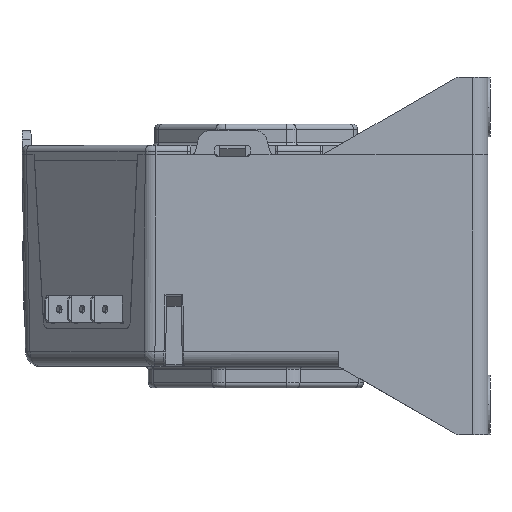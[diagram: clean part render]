
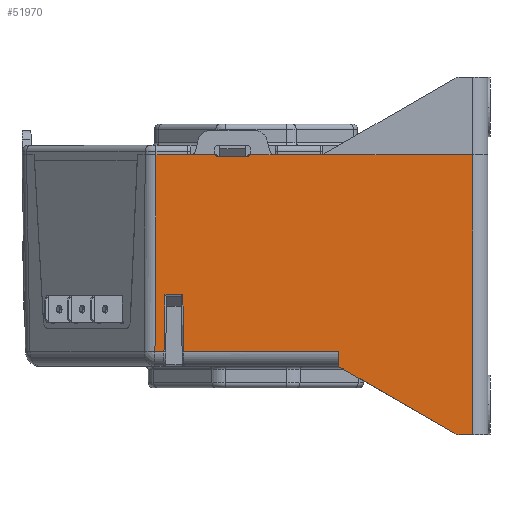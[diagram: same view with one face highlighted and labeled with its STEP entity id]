
A CAD part, left-side view. The second image highlights one B-rep face of the part: STEP entity #51970.
In plain terms, the highlighted planar face has unit normal (-1, 0, -0.018).
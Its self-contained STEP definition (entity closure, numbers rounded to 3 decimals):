
#5070=CARTESIAN_POINT('',(-50.,15.767,-7.2));
#5080=VERTEX_POINT('',#5070);
#5490=CARTESIAN_POINT('',(-48.851,-50.4,-73.));
#5500=VERTEX_POINT('',#5490);
#5550=CARTESIAN_POINT('',(-50.125,-50.4,-0.063));
#5560=DIRECTION('',(-0.017,0.,1.));
#5570=VECTOR('',#5560,1.);
#5580=LINE('',#5550,#5570);
#5590=CARTESIAN_POINT('',(-50.,-50.4,-7.2));
#5600=VERTEX_POINT('',#5590);
#5610=EDGE_CURVE('',#5500,#5600,#5580,.T.);
#9270=CARTESIAN_POINT('',(-50.,0.,-7.2));
#9280=DIRECTION('',(0.,-1.,0.));
#9290=VECTOR('',#9280,1.);
#9300=LINE('',#9270,#9290);
#9310=CARTESIAN_POINT('',(-50.,-15.177,-7.2));
#9320=VERTEX_POINT('',#9310);
#9330=EDGE_CURVE('',#9320,#5600,#9300,.T.);
#26670=CARTESIAN_POINT('',(-50.,1.834,-7.2));
#26680=VERTEX_POINT('',#26670);
#26710=CARTESIAN_POINT('',(-50.009,2.7,-6.7));
#26720=DIRECTION('',(-1.,0.,-0.017));
#26730=DIRECTION('',(-0.017,0.,1.));
#26740=AXIS2_PLACEMENT_3D('',#26710,#26720,#26730);
#26750=ELLIPSE('',#26740,1.,1.);
#26760=CARTESIAN_POINT('',(-49.991,2.7,-7.7));
#26770=VERTEX_POINT('',#26760);
#26780=EDGE_CURVE('',#26770,#26680,#26750,.T.);
#27080=CARTESIAN_POINT('',(-50.,10.166,-7.2));
#27090=VERTEX_POINT('',#27080);
#27350=CARTESIAN_POINT('',(-49.991,9.3,-7.7));
#27360=VERTEX_POINT('',#27350);
#27390=CARTESIAN_POINT('',(-50.009,9.3,-6.7));
#27400=DIRECTION('',(-1.,0.,-0.017));
#27410=DIRECTION('',(-0.017,0.,1.));
#27420=AXIS2_PLACEMENT_3D('',#27390,#27400,#27410);
#27430=ELLIPSE('',#27420,1.,1.);
#27440=EDGE_CURVE('',#27090,#27360,#27430,.T.);
#38860=CARTESIAN_POINT('',(-50.,0.,-7.2));
#38870=DIRECTION('',(0.,-1.,0.));
#38880=VECTOR('',#38870,1.);
#38890=LINE('',#38860,#38880);
#38900=EDGE_CURVE('',#5080,#27090,#38890,.T.);
#39330=CARTESIAN_POINT('',(-50.,-3.767,-7.2));
#39340=VERTEX_POINT('',#39330);
#39370=EDGE_CURVE('',#26680,#39340,#38890,.T.);
#39900=CARTESIAN_POINT('',(-50.,0.,-7.2));
#39910=DIRECTION('',(0.,-1.,0.));
#39920=VECTOR('',#39910,1.);
#39930=LINE('',#39900,#39920);
#39940=CARTESIAN_POINT('',(-50.,-14.65,-7.2));
#39950=VERTEX_POINT('',#39940);
#39960=EDGE_CURVE('',#39950,#9320,#39930,.T.);
#44250=CARTESIAN_POINT('',(-49.192,17.47,
-53.463));
#44260=VERTEX_POINT('',#44250);
#44290=CARTESIAN_POINT('',(-49.192,0.,-53.463));
#44300=DIRECTION('',(0.,1.,0.));
#44310=VECTOR('',#44300,1.);
#44320=LINE('',#44290,#44310);
#44330=CARTESIAN_POINT('',(-49.192,-18.987,
-53.463));
#44340=VERTEX_POINT('',#44330);
#44350=EDGE_CURVE('',#44340,#44260,#44320,.T.);
#44500=CARTESIAN_POINT('',(-49.192,24.245,
-53.463));
#44510=VERTEX_POINT('',#44500);
#44540=CARTESIAN_POINT('',(-49.192,22.13,
-53.463));
#44550=VERTEX_POINT('',#44540);
#44560=EDGE_CURVE('',#44550,#44510,#44320,.T.);
#47010=CARTESIAN_POINT('',(-50.,24.009,-7.2));
#47020=VERTEX_POINT('',#47010);
#47050=CARTESIAN_POINT('',(-50.125,23.972,
-0.063));
#47060=DIRECTION('',(-0.017,-0.005,
1.));
#47070=VECTOR('',#47060,1.);
#47080=LINE('',#47050,#47070);
#47090=EDGE_CURVE('',#44510,#47020,#47080,.T.);
#50880=CARTESIAN_POINT('',(-49.635,-26.301,
-28.101));
#50890=DIRECTION('',(-1.,-0.,-0.017));
#50900=DIRECTION('',(0.,-1.,0.));
#50910=AXIS2_PLACEMENT_3D('',#50880,#50890,#50900);
#50920=PLANE('',#50910);
#50930=CARTESIAN_POINT('',(-50.126,21.197,
-0.007));
#50940=DIRECTION('',(-0.017,-0.017,
1.));
#50950=VECTOR('',#50940,1.);
#50960=LINE('',#50930,#50950);
#50970=CARTESIAN_POINT('',(-49.425,21.897,
-40.134));
#50980=VERTEX_POINT('',#50970);
#50990=EDGE_CURVE('',#44550,#50980,#50960,.T.);
#51000=ORIENTED_EDGE('',*,*,#50990,.T.);
#51010=ORIENTED_EDGE('',*,*,#44560,.F.);
#51020=ORIENTED_EDGE('',*,*,#47090,.F.);
#51030=CARTESIAN_POINT('',(-46.4,24.009,-7.2));
#51040=DIRECTION('',(0.,0.,1.));
#51050=DIRECTION('',(1.,0.,0.));
#51060=AXIS2_PLACEMENT_3D('',#51030,#51040,#51050);
#51070=CIRCLE('',#51060,3.6);
#51080=CARTESIAN_POINT('',(-50.,24.009,-7.2));
#51090=VERTEX_POINT('',#51080);
#51100=EDGE_CURVE('',#47020,#51090,#51070,.T.);
#51110=ORIENTED_EDGE('',*,*,#51100,.F.);
#51120=CARTESIAN_POINT('',(-50.,0.,-7.2));
#51130=DIRECTION('',(0.,-1.,0.));
#51140=VECTOR('',#51130,1.);
#51150=LINE('',#51120,#51140);
#51160=CARTESIAN_POINT('',(-50.,16.5,-7.2));
#51170=VERTEX_POINT('',#51160);
#51180=EDGE_CURVE('',#51090,#51170,#51150,.T.);
#51190=ORIENTED_EDGE('',*,*,#51180,.F.);
#51200=CARTESIAN_POINT('',(-50.,0.,-7.2));
#51210=DIRECTION('',(0.,-1.,0.));
#51220=VECTOR('',#51210,1.);
#51230=LINE('',#51200,#51220);
#51240=EDGE_CURVE('',#51170,#5080,#51230,.T.);
#51250=ORIENTED_EDGE('',*,*,#51240,.F.);
#51260=ORIENTED_EDGE('',*,*,#38900,.F.);
#51270=ORIENTED_EDGE('',*,*,#27440,.F.);
#51280=CARTESIAN_POINT('',(-49.991,0.,-7.7));
#51290=DIRECTION('',(0.,1.,0.));
#51300=VECTOR('',#51290,1.);
#51310=LINE('',#51280,#51300);
#51320=EDGE_CURVE('',#26770,#27360,#51310,.T.);
#51330=ORIENTED_EDGE('',*,*,#51320,.T.);
#51340=ORIENTED_EDGE('',*,*,#26780,.F.);
#51350=ORIENTED_EDGE('',*,*,#39370,.F.);
#51360=CARTESIAN_POINT('',(-50.,-4.5,-7.2));
#51370=VERTEX_POINT('',#51360);
#51380=EDGE_CURVE('',#39340,#51370,#39930,.T.);
#51390=ORIENTED_EDGE('',*,*,#51380,.F.);
#51400=CARTESIAN_POINT('',(-50.,0.,-7.2));
#51410=DIRECTION('',(0.,-1.,0.));
#51420=VECTOR('',#51410,1.);
#51430=LINE('',#51400,#51420);
#51440=EDGE_CURVE('',#51370,#39950,#51430,.T.);
#51450=ORIENTED_EDGE('',*,*,#51440,.F.);
#51460=ORIENTED_EDGE('',*,*,#39960,.F.);
#51470=ORIENTED_EDGE('',*,*,#9330,.F.);
#51480=ORIENTED_EDGE('',*,*,#5610,.T.);
#51490=CARTESIAN_POINT('',(-48.851,0.,-73.));
#51500=DIRECTION('',(0.,-1.,0.));
#51510=VECTOR('',#51500,1.);
#51520=LINE('',#51490,#51510);
#51530=CARTESIAN_POINT('',(-48.851,-47.343,-73.));
#51540=VERTEX_POINT('',#51530);
#51550=EDGE_CURVE('',#51540,#5500,#51520,.T.);
#51560=ORIENTED_EDGE('',*,*,#51550,.T.);
#51570=CARTESIAN_POINT('',(-48.893,-47.343,-70.6));
#51580=DIRECTION('',(-1.,0.,-0.017));
#51590=DIRECTION('',(-0.017,0.,1.));
#51600=AXIS2_PLACEMENT_3D('',#51570,#51580,#51590);
#51610=ELLIPSE('',#51600,2.4,2.4);
#51620=CARTESIAN_POINT('',(-48.857,-46.143,
-72.678));
#51630=VERTEX_POINT('',#51620);
#51640=EDGE_CURVE('',#51630,#51540,#51610,.T.);
#51650=ORIENTED_EDGE('',*,*,#51640,.T.);
#51660=CARTESIAN_POINT('',(-49.322,0.,-46.038));
#51670=DIRECTION('',(-0.009,0.866,
0.5));
#51680=VECTOR('',#51670,1.);
#51690=LINE('',#51660,#51680);
#51700=CARTESIAN_POINT('',(-49.131,-18.987,-57.));
#51710=VERTEX_POINT('',#51700);
#51720=EDGE_CURVE('',#51630,#51710,#51690,.T.);
#51730=ORIENTED_EDGE('',*,*,#51720,.F.);
#51740=CARTESIAN_POINT('',(-50.126,-18.987,0.));
#51750=DIRECTION('',(-0.017,0.,1.));
#51760=VECTOR('',#51750,1.);
#51770=LINE('',#51740,#51760);
#51780=EDGE_CURVE('',#51710,#44340,#51770,.T.);
#51790=ORIENTED_EDGE('',*,*,#51780,.F.);
#51800=ORIENTED_EDGE('',*,*,#44350,.F.);
#51810=CARTESIAN_POINT('',(-50.126,18.403,
-0.007));
#51820=DIRECTION('',(-0.017,0.017,
1.));
#51830=VECTOR('',#51820,1.);
#51840=LINE('',#51810,#51830);
#51850=CARTESIAN_POINT('',(-49.425,17.703,
-40.134));
#51860=VERTEX_POINT('',#51850);
#51870=EDGE_CURVE('',#44260,#51860,#51840,.T.);
#51880=ORIENTED_EDGE('',*,*,#51870,.F.);
#51890=CARTESIAN_POINT('',(-49.425,0.,-40.134));
#51900=DIRECTION('',(0.,1.,0.));
#51910=VECTOR('',#51900,1.);
#51920=LINE('',#51890,#51910);
#51930=EDGE_CURVE('',#51860,#50980,#51920,.T.);
#51940=ORIENTED_EDGE('',*,*,#51930,.F.);
#51950=EDGE_LOOP('',(#51940,#51880,#51800,#51790,#51730,#51650,#51560,
#51480,#51470,#51460,#51450,#51390,#51350,#51340,#51330,#51270,#51260,
#51250,#51190,#51110,#51020,#51010,#51000));
#51960=FACE_OUTER_BOUND('',#51950,.T.);
#51970=ADVANCED_FACE('',(#51960),#50920,.T.);
